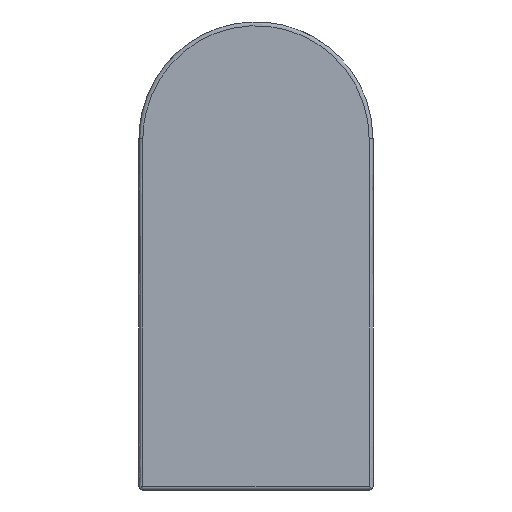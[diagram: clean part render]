
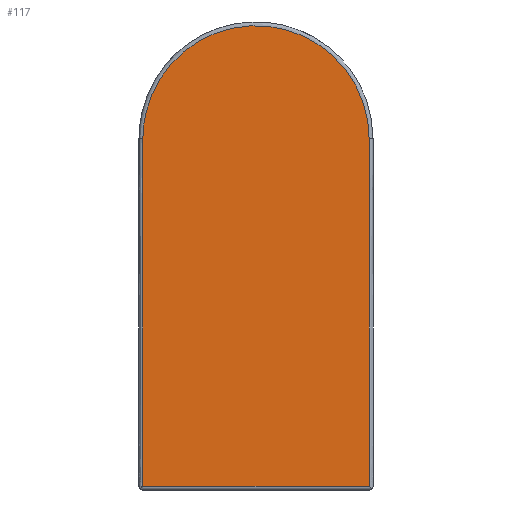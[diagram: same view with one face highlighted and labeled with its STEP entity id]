
A CAD part, left-side view. The second image highlights one B-rep face of the part: STEP entity #117.
In plain terms, the highlighted planar face has unit normal (-1, 0, 0).
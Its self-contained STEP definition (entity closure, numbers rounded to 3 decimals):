
#117=ADVANCED_FACE('',(#188),#1100,.T.);
#188=FACE_OUTER_BOUND('',#259,.T.);
#259=EDGE_LOOP('',(#459,#460,#461,#462));
#459=ORIENTED_EDGE('',*,*,#709,.T.);
#460=ORIENTED_EDGE('',*,*,#702,.T.);
#461=ORIENTED_EDGE('',*,*,#707,.T.);
#462=ORIENTED_EDGE('',*,*,#708,.T.);
#702=EDGE_CURVE('',#991,#993,#808,.T.);
#707=EDGE_CURVE('',#993,#992,#812,.T.);
#708=EDGE_CURVE('',#992,#990,#813,.T.);
#709=EDGE_CURVE('',#990,#991,#814,.T.);
#808=(
BOUNDED_CURVE()
B_SPLINE_CURVE(2,(#1886,#1887,#1888,#1889,#1890,#1891,#1892,#1893,#1894),
 .UNSPECIFIED.,.F.,.F.)
B_SPLINE_CURVE_WITH_KNOTS((3,2,2,2,3),(0.,113.883,227.766,
341.648,455.531),.UNSPECIFIED.)
CURVE()
GEOMETRIC_REPRESENTATION_ITEM()
RATIONAL_B_SPLINE_CURVE((1.,0.924,1.,0.924,1.,0.924,
1.,0.924,1.))
REPRESENTATION_ITEM('')
);
#812=(
BOUNDED_CURVE()
B_SPLINE_CURVE(1,(#1911,#1912),.UNSPECIFIED.,.F.,.F.)
B_SPLINE_CURVE_WITH_KNOTS((2,2),(0.,444.999),
 .UNSPECIFIED.)
CURVE()
GEOMETRIC_REPRESENTATION_ITEM()
RATIONAL_B_SPLINE_CURVE((1.,1.))
REPRESENTATION_ITEM('')
);
#813=(
BOUNDED_CURVE()
B_SPLINE_CURVE(1,(#1913,#1914),.UNSPECIFIED.,.F.,.F.)
B_SPLINE_CURVE_WITH_KNOTS((2,2),(5.,295.),
 .UNSPECIFIED.)
CURVE()
GEOMETRIC_REPRESENTATION_ITEM()
RATIONAL_B_SPLINE_CURVE((1.,1.))
REPRESENTATION_ITEM('')
);
#814=(
BOUNDED_CURVE()
B_SPLINE_CURVE(1,(#1915,#1916),.UNSPECIFIED.,.F.,.F.)
B_SPLINE_CURVE_WITH_KNOTS((2,2),(5.,450.),.UNSPECIFIED.)
CURVE()
GEOMETRIC_REPRESENTATION_ITEM()
RATIONAL_B_SPLINE_CURVE((1.,1.))
REPRESENTATION_ITEM('')
);
#990=VERTEX_POINT('',#1735);
#991=VERTEX_POINT('',#1736);
#992=VERTEX_POINT('',#1737);
#993=VERTEX_POINT('',#1738);
#1100=PLANE('',#1148);
#1148=AXIS2_PLACEMENT_3D('',#1649,#1179,$);
#1179=DIRECTION('',(-1.,0.,0.));
#1649=CARTESIAN_POINT('',(-330.,187.5,-75.));
#1735=CARTESIAN_POINT('',(-330.,-145.,5.));
#1736=CARTESIAN_POINT('',(-330.,-145.,450.));
#1737=CARTESIAN_POINT('',(-330.,145.,5.));
#1738=CARTESIAN_POINT('',(-330.,145.,449.999));
#1886=CARTESIAN_POINT('',(-330.,-145.,450.));
#1887=CARTESIAN_POINT('',(-330.,-145.,510.061));
#1888=CARTESIAN_POINT('',(-330.,-102.531,552.531));
#1889=CARTESIAN_POINT('',(-330.,-60.061,595.));
#1890=CARTESIAN_POINT('',(-330.,0.,595.));
#1891=CARTESIAN_POINT('',(-330.,60.061,595.));
#1892=CARTESIAN_POINT('',(-330.,102.53,552.53));
#1893=CARTESIAN_POINT('',(-330.,145.,510.06));
#1894=CARTESIAN_POINT('',(-330.,145.,449.999));
#1911=CARTESIAN_POINT('',(-330.,145.,449.999));
#1912=CARTESIAN_POINT('',(-330.,145.,5.));
#1913=CARTESIAN_POINT('',(-330.,145.,5.));
#1914=CARTESIAN_POINT('',(-330.,-145.,5.));
#1915=CARTESIAN_POINT('',(-330.,-145.,5.));
#1916=CARTESIAN_POINT('',(-330.,-145.,450.));
